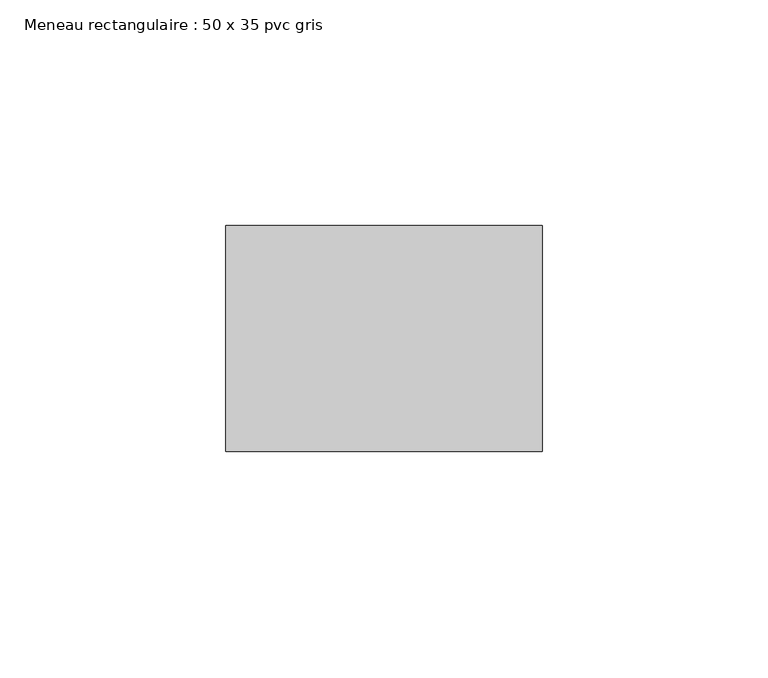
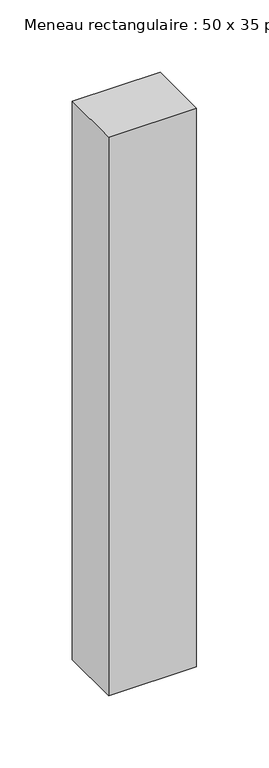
"""IFC4 building model written with IfcOpenShell, lengths in millimetres: member geometry, Meneau rectangulaire : 50 x 35 pvc gris."""

from ifc_helpers import new_model, si_unit, frame, origin, place, context, project, spatial, polyline, outline, extrude, source, transform, mapped, element, save


def meneau_rectangulaire_50_x_35_pvc_gris_959f2918(model_context):
    return source(origin(), model_context, "Body", "SweptSolid", [
        extrude(outline(polyline([(35.0, 0.0), (35.0, -50.0), (-35.0, -50.0), (-35.0, 0.0), (35.0, 0.0)])), frame((0.0, 0.0, -471.0), z_axis=(0.0, 0.0, 1.0), x_axis=(1.0, 0.0, 0.0)), (0.0, 0.0, 1.0), 471.0),
    ])


if __name__ == "__main__":
    model = new_model("IFC4")
    model_context = context("Model", 3, world=origin())
    ifc_project = project(units=[si_unit("LENGTHUNIT", "METRE", prefix="MILLI")], contexts=[model_context])
    site = spatial("IfcSite", under=ifc_project)
    building = spatial("IfcBuilding", under=site)
    placement = place(None, origin())
    meneau_rectangulaire_50_x_35_pvc_gris_shape = meneau_rectangulaire_50_x_35_pvc_gris_959f2918(model_context)
    element("IfcMember", 1, ObjectType="Meneau rectangulaire : 50 x 35 pvc gris", at=placement, inside=building, context=model_context, shape_type="MappedRepresentation", body=[
        mapped(meneau_rectangulaire_50_x_35_pvc_gris_shape, transform((0.0, 0.0, 0.0), x_axis=(1.0, 0.0, 0.0), y_axis=(0.0, 1.0, 0.0), z_axis=(0.0, 0.0, 1.0))),
    ])
    save(model, "model.ifc")
